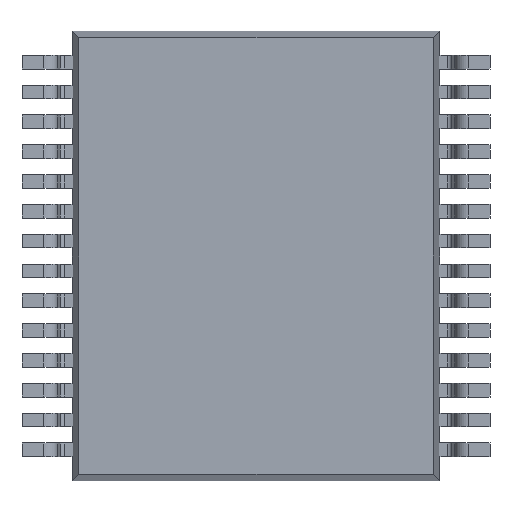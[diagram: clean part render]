
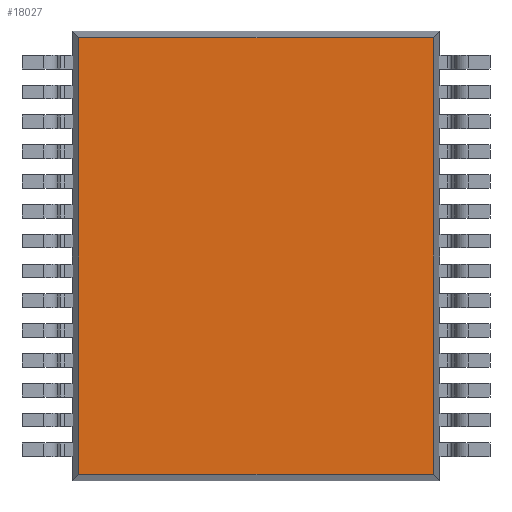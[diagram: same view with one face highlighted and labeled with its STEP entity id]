
A CAD part, front view. The second image highlights one B-rep face of the part: STEP entity #18027.
In plain terms, the highlighted planar face has unit normal (0, -1, 0).
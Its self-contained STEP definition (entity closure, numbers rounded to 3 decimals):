
#2434 = FACE_OUTER_BOUND ( 'NONE', #17677, .T. ) ;
#2781 = PLANE ( 'NONE',  #8009 ) ;
#2782 = CARTESIAN_POINT ( 'NONE',  ( 0., 0.1, 0. ) ) ;
#2794 = DIRECTION ( 'NONE',  ( 0., 1., 0. ) ) ;
#2795 = DIRECTION ( 'NONE',  ( 0., 0., 1. ) ) ;
#4095 = VERTEX_POINT ( 'NONE', #6105 ) ;
#4103 = VERTEX_POINT ( 'NONE', #6113 ) ;
#4108 = VERTEX_POINT ( 'NONE', #6118 ) ;
#4110 = VERTEX_POINT ( 'NONE', #6120 ) ;
#6105 = CARTESIAN_POINT ( 'NONE',  ( 3.859, 0.1, -4.759 ) ) ;
#6113 = CARTESIAN_POINT ( 'NONE',  ( 3.859, 0.1, 4.759 ) ) ;
#6118 = CARTESIAN_POINT ( 'NONE',  ( -3.859, 0.1, -4.759 ) ) ;
#6120 = CARTESIAN_POINT ( 'NONE',  ( -3.859, 0.1, 4.759 ) ) ;
#7165 = LINE ( 'NONE', #10461, #7170 ) ;
#7167 = LINE ( 'NONE', #10476, #7168 ) ;
#7168 = VECTOR ( 'NONE', #10469, 1000. ) ;
#7170 = VECTOR ( 'NONE', #10478, 1000. ) ;
#7316 = LINE ( 'NONE', #10681, #7321 ) ;
#7321 = VECTOR ( 'NONE', #10693, 1000. ) ;
#8009 = AXIS2_PLACEMENT_3D ( 'NONE', #2782, #2794, #2795 ) ;
#8982 = ORIENTED_EDGE ( 'NONE', *, *, #13515, .T. ) ;
#8983 = ORIENTED_EDGE ( 'NONE', *, *, #12899, .T. ) ;
#8985 = ORIENTED_EDGE ( 'NONE', *, *, #13046, .T. ) ;
#8987 = ORIENTED_EDGE ( 'NONE', *, *, #12900, .T. ) ;
#10461 = CARTESIAN_POINT ( 'NONE',  ( 4., 0.1, 4.759 ) ) ;
#10469 = DIRECTION ( 'NONE',  ( 1., 0., 0. ) ) ;
#10476 = CARTESIAN_POINT ( 'NONE',  ( 4., 0.1, -4.759 ) ) ;
#10478 = DIRECTION ( 'NONE',  ( -1., 0., 0. ) ) ;
#10681 = CARTESIAN_POINT ( 'NONE',  ( 3.859, 0.1, 4.9 ) ) ;
#10693 = DIRECTION ( 'NONE',  ( 0., 0., 1. ) ) ;
#11326 = CARTESIAN_POINT ( 'NONE',  ( -3.859, 0.1, 4.9 ) ) ;
#11327 = DIRECTION ( 'NONE',  ( 0., 0., -1. ) ) ;
#12274 = LINE ( 'NONE', #11326, #12277 ) ;
#12277 = VECTOR ( 'NONE', #11327, 1000. ) ;
#12899 = EDGE_CURVE ( 'NONE', #4108, #4095, #7167, .T. ) ;
#12900 = EDGE_CURVE ( 'NONE', #4103, #4110, #7165, .T. ) ;
#13046 = EDGE_CURVE ( 'NONE', #4095, #4103, #7316, .T. ) ;
#13515 = EDGE_CURVE ( 'NONE', #4110, #4108, #12274, .T. ) ;
#17677 = EDGE_LOOP ( 'NONE', ( #8982, #8983, #8985, #8987 ) ) ;
#18027 = ADVANCED_FACE ( 'NONE', ( #2434 ), #2781, .F. ) ;
